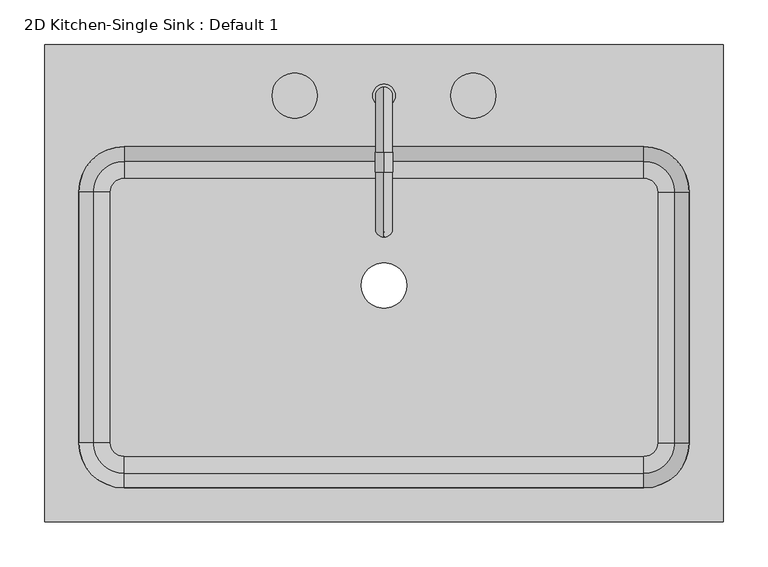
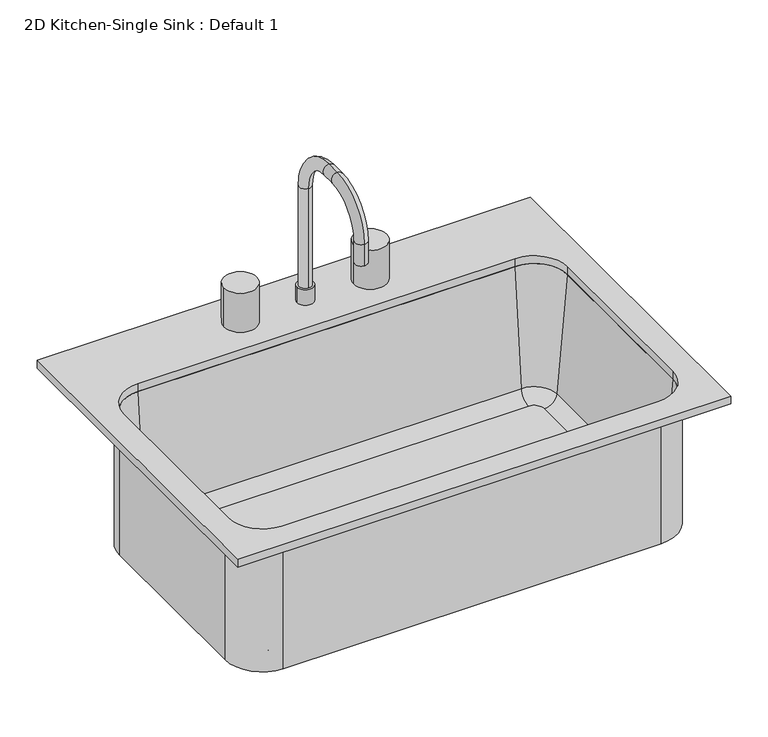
"""IFC4 building model written with IfcOpenShell, lengths in millimetres: flow terminal geometry, 2D Kitchen-Single Sink : Default 1."""

import ifcopenshell
import ifcopenshell.guid

model = None  # the IFC model being written
_history = None  # IfcOwnerHistory: only IFC2X3 demands one
_inside = {}  # id of a spatial element -> (the spatial element, [elements in it])
_under = {}  # id of a project, library or spatial element -> (it, [spatial elements below it])
_declared = {}  # id of a project -> (the project, [libraries it declares])
_typed = {}  # id of a type object -> (the type object, [elements of that type])
_made_of = {}  # id of a material, layer set ... -> (it, [elements and type objects made of it])


def new_model(schema):
    """Start an empty IFC model of exactly this schema.

    Asked for "IFC4X3", IfcOpenShell would pick the latest addendum, in which some entities
    have other attributes; the version numbers below select the first issue.
    IFC2X3 requires an IfcOwnerHistory on every rooted entity: one is made here for all.
    """
    global model, _history
    if schema == "IFC4X3":
        model = ifcopenshell.file(schema_version=(4, 3, 0, 0))
    else:
        model = ifcopenshell.file(schema=schema)
    _inside.clear()
    _under.clear()
    _declared.clear()
    _typed.clear()
    _made_of.clear()
    _history = None
    if model.schema == "IFC2X3":
        org = make("IfcOrganization", Name="unknown")
        user = make(
            "IfcPersonAndOrganization",
            ThePerson=make("IfcPerson", FamilyName="unknown"),
            TheOrganization=org,
        )
        app = make(
            "IfcApplication",
            ApplicationDeveloper=org,
            Version="unknown",
            ApplicationFullName="unknown",
            ApplicationIdentifier="unknown",
        )
        _history = make(
            "IfcOwnerHistory",
            OwningUser=user,
            OwningApplication=app,
            ChangeAction="ADDED",
            CreationDate=0,
        )
    return model


def make(cls, **values):
    """One entity of the class cls with the attributes given. An attribute that is None is left unset."""
    return model.create_entity(
        cls, **{name: value for name, value in values.items() if value is not None}
    )


def rooted(cls, **values):
    """An entity with a GlobalId (a new one), such as an element, a storey or a relation."""
    return make(cls, GlobalId=ifcopenshell.guid.new(), OwnerHistory=_history, **values)


def si_unit(unit_type, name, prefix=None):
    """IfcSIUnit, for example si_unit("LENGTHUNIT", "METRE", prefix="MILLI")."""
    return make("IfcSIUnit", UnitType=unit_type, Prefix=prefix, Name=name)


def assignment(units):
    """IfcUnitAssignment: the units of a project."""
    return None if units is None else make("IfcUnitAssignment", Units=units)


def point(xyz):
    """IfcCartesianPoint."""
    return None if xyz is None else make("IfcCartesianPoint", Coordinates=xyz)


def direction(xyz):
    """IfcDirection."""
    return None if xyz is None else make("IfcDirection", DirectionRatios=xyz)


def frame(location, z_axis=None, x_axis=None):
    """IfcAxis2Placement3D, a coordinate frame: its origin and axes. An axis left out is left unset."""
    return make(
        "IfcAxis2Placement3D",
        Location=point(location),
        Axis=direction(z_axis),
        RefDirection=direction(x_axis),
    )


def frame_2d(location, x_axis=None):
    """IfcAxis2Placement2D, a coordinate frame in the plane: its origin and x axis."""
    return make(
        "IfcAxis2Placement2D", Location=point(location), RefDirection=direction(x_axis)
    )


def origin():
    """The frame at (0, 0, 0) with its axes left unset."""
    return frame((0.0, 0.0, 0.0))


def place(relative_to, where):
    """IfcLocalPlacement: puts the frame where relative to a parent placement (None: the world)."""
    return make(
        "IfcLocalPlacement", PlacementRelTo=relative_to, RelativePlacement=where
    )


def context(
    kind, dimensions, precision=None, world=None, true_north=None, identifier=None
):
    """IfcGeometricRepresentationContext, for example the 3D "Model" context."""
    return make(
        "IfcGeometricRepresentationContext",
        ContextIdentifier=identifier,
        ContextType=kind,
        CoordinateSpaceDimension=dimensions,
        Precision=precision,
        WorldCoordinateSystem=world,
        TrueNorth=true_north,
    )


def project(units=None, contexts=None):
    """IfcProject with its units and contexts."""
    return rooted(
        "IfcProject",
        Name="project",
        RepresentationContexts=contexts,
        UnitsInContext=assignment(units),
    )


def spatial(cls, under=None, at=None, **own):
    """A site, building, storey or space (cls), placed at a placement, below another one or the project."""
    s = rooted(cls, ObjectPlacement=at, **own)
    if under is not None:
        _under.setdefault(under.id(), (under, []))[1].append(s)
    return s


def polyline(points):
    """IfcPolyline through the points."""
    return make("IfcPolyline", Points=[point(p) for p in points])


def circle_curve(where, radius):
    """IfcCircle in the frame where."""
    return make("IfcCircle", Position=where, Radius=radius)


def ellipse_curve(where, semi_axis1, semi_axis2):
    """IfcEllipse in the frame where."""
    return make(
        "IfcEllipse", Position=where, SemiAxis1=semi_axis1, SemiAxis2=semi_axis2
    )


def trimmed(basis, trim1, trim2, sense, master):
    """IfcTrimmedCurve: the piece of a basis curve between two trims."""
    return make(
        "IfcTrimmedCurve",
        BasisCurve=basis,
        Trim1=trim1,
        Trim2=trim2,
        SenseAgreement=sense,
        MasterRepresentation=master,
    )


def segment(curve, same_sense, transition):
    """IfcCompositeCurveSegment."""
    return make(
        "IfcCompositeCurveSegment",
        Transition=transition,
        SameSense=same_sense,
        ParentCurve=curve,
    )


def composite_curve(segments, self_intersect=None):
    """IfcCompositeCurve: segments joined end to end."""
    return make("IfcCompositeCurve", Segments=segments, SelfIntersect=self_intersect)


def outline(outer, holes=None, kind="AREA"):
    """IfcArbitraryClosedProfileDef: a profile drawn as a closed curve; with holes, ...WithVoids."""
    if holes is None:
        return make("IfcArbitraryClosedProfileDef", ProfileType=kind, OuterCurve=outer)
    return make(
        "IfcArbitraryProfileDefWithVoids",
        ProfileType=kind,
        OuterCurve=outer,
        InnerCurves=holes,
    )


def extrude(swept, where, along, depth):
    """IfcExtrudedAreaSolid: the profile swept, set in the frame where, extruded along a direction by depth."""
    return make(
        "IfcExtrudedAreaSolid",
        SweptArea=swept,
        Position=where,
        ExtrudedDirection=direction(along),
        Depth=depth,
    )


def shape(context_of_items, identifier, shape_type, items):
    """IfcShapeRepresentation: the items that make up one representation, for example the "Body"."""
    return make(
        "IfcShapeRepresentation",
        ContextOfItems=context_of_items,
        RepresentationIdentifier=identifier,
        RepresentationType=shape_type,
        Items=items,
    )


def source(mapping_origin, context_of_items, identifier, shape_type, items):
    """IfcRepresentationMap: a shape defined once, which mapped items show again and again."""
    return make(
        "IfcRepresentationMap",
        MappingOrigin=mapping_origin,
        MappedRepresentation=shape(context_of_items, identifier, shape_type, items),
    )


def transform(
    local_origin,
    x_axis=None,
    y_axis=None,
    z_axis=None,
    scale=None,
    scale2=None,
    scale3=None,
    uniform=True,
):
    """IfcCartesianTransformationOperator3D, or its non-uniform kind. x_axis, y_axis, z_axis: its Axis1, 2, 3."""
    if uniform:
        return make(
            "IfcCartesianTransformationOperator3D",
            Axis1=direction(x_axis),
            Axis2=direction(y_axis),
            LocalOrigin=point(local_origin),
            Scale=scale,
            Axis3=direction(z_axis),
        )
    return make(
        "IfcCartesianTransformationOperator3DnonUniform",
        Axis1=direction(x_axis),
        Axis2=direction(y_axis),
        LocalOrigin=point(local_origin),
        Scale=scale,
        Axis3=direction(z_axis),
        Scale2=scale2,
        Scale3=scale3,
    )


def mapped(mapping_source, mapping_target):
    """IfcMappedItem: shows the shape of a source again, moved by a transform."""
    return make(
        "IfcMappedItem", MappingSource=mapping_source, MappingTarget=mapping_target
    )


def made_of(thing, what):
    """Note that an element or type object is made of a material, layer set ...; save() writes the relation."""
    if what is not None:
        _made_of.setdefault(what.id(), (what, []))[1].append(thing)
    return thing


def element(
    cls,
    number,
    at=None,
    inside=None,
    cuts=None,
    type_object=None,
    material=None,
    context=None,
    identifier="Body",
    shape_type=None,
    held_by="IfcProductDefinitionShape",
    body=None,
    shapes=None,
    **own,
):
    """One element of the class cls, such as IfcWall. Its Tag is "e" and its number.

    at: its placement. inside: the storey or other place that contains it. cuts: it is an
    opening in that element (IfcRelVoidsElement). A single representation is given by context,
    identifier, shape_type and body (its items); several are given by shapes. held_by: the class
    of the entity that holds the representations. save() writes the other relations.
    """
    e = rooted(cls, Tag="e%d" % number, ObjectPlacement=at, **own)
    if body is not None:
        shapes = [shape(context, identifier, shape_type, body)]
    if shapes is not None:
        e.Representation = make(held_by, Representations=shapes)
    if inside is not None:
        _inside.setdefault(inside.id(), (inside, []))[1].append(e)
    if cuts is not None:
        rooted(
            "IfcRelVoidsElement", RelatingBuildingElement=cuts, RelatedOpeningElement=e
        )
    if type_object is not None:
        _typed.setdefault(type_object.id(), (type_object, []))[1].append(e)
    return made_of(e, material)


def aggregate(whole, parts):
    """IfcRelAggregates: a whole, such as a stair, and the parts it consists of."""
    return rooted("IfcRelAggregates", RelatingObject=whole, RelatedObjects=parts)


def save(model, path):
    """Write the relations noted so far, then the file.

    IfcRelAggregates (storeys below a building ...), IfcRelContainedInSpatialStructure (elements
    in a storey), IfcRelDefinesByType, IfcRelAssociatesMaterial and IfcRelDeclares: one each for
    every whole, place, type object, material and project.
    """
    for whole, parts in _under.values():
        aggregate(whole, parts)
    for where, things in _inside.values():
        rooted(
            "IfcRelContainedInSpatialStructure",
            RelatedElements=things,
            RelatingStructure=where,
        )
    for kind, things in _typed.values():
        rooted("IfcRelDefinesByType", RelatedObjects=things, RelatingType=kind)
    for what, things in _made_of.values():
        rooted("IfcRelAssociatesMaterial", RelatedObjects=things, RelatingMaterial=what)
    for by, libraries in _declared.values():
        rooted("IfcRelDeclares", RelatingContext=by, RelatedDefinitions=libraries)
    model.write(path)


def plane_surface(at):
    """IfcPlane: the flat surface through the origin of the frame at, square to its z axis."""
    return make("IfcPlane", Position=at)


def cylinder_surface(at, radius):
    """IfcCylindricalSurface: all points at the distance radius from the z axis of the frame at."""
    return make("IfcCylindricalSurface", Position=at, Radius=radius)


def revolved_surface(curve, axis_point, axis_direction):
    """IfcSurfaceOfRevolution: the curve turned about the line through axis_point along axis_direction."""
    return make(
        "IfcSurfaceOfRevolution",
        SweptCurve=make("IfcArbitraryOpenProfileDef", ProfileType="CURVE", Curve=curve),
        AxisPosition=make("IfcAxis1Placement", Location=point(axis_point), Axis=direction(axis_direction)),
    )


def advanced_brep(points, edges, surfaces, faces):
    """IfcAdvancedBrep: a solid bounded by faces that lie on surfaces and meet in shared edges.

    An edge is (start, end): straight between two places in points (the first is 0);
    or (start, end, curve); or (start, end, curve, False) where it runs against its curve.
    A face is (place in surfaces, loops), or (place, loops, False) where it looks against
    its surface's normal. A loop lists edges by number (the first is 1), with a minus sign
    where the edge is run from its end to its start. The first loop is the outer one.
    """
    corners = [point(p) for p in points]
    vertices = [make("IfcVertexPoint", VertexGeometry=c) for c in corners]
    made = []
    for start, end, *more in edges:
        made.append(
            make(
                "IfcEdgeCurve",
                EdgeStart=vertices[start],
                EdgeEnd=vertices[end],
                EdgeGeometry=more[0] if more else make("IfcPolyline", Points=[corners[start], corners[end]]),
                SameSense=more[1] if len(more) > 1 else True,
            )
        )
    hull = []
    for where, loops, *sense in faces:
        bounds = []
        for j, loop in enumerate(loops):
            ring = [make("IfcOrientedEdge", EdgeElement=made[abs(k) - 1], Orientation=k > 0) for k in loop]
            bounds.append(
                make(
                    "IfcFaceOuterBound" if j == 0 else "IfcFaceBound",
                    Bound=make("IfcEdgeLoop", EdgeList=ring),
                    Orientation=True,
                )
            )
        hull.append(make("IfcAdvancedFace", Bounds=bounds, FaceSurface=surfaces[where], SameSense=sense[0] if sense else True))
    return make("IfcAdvancedBrep", Outer=make("IfcClosedShell", CfsFaces=hull))


def flow_terminal_2d_kitchen_single_sink_default_1_444df6f0(model_context):
    return source(origin(), model_context, "Body", "SolidModel", [
        advanced_brep(
        [(363.9392406, 104.7454011, 546.1), (306.7892406, 161.8954011, 546.1), (306.7892406, 161.8954011, 762.0), (363.9392406, 104.7454011, 762.0), (363.9392406, -176.2545989, 546.1), (306.7892406, -233.4045989, 546.1), (-275.4107594, -233.4045989, 546.1), (-332.5607594, -176.2545989, 546.1), (-332.5607594, 104.7454011, 546.1), (-275.4107594, 161.8954011, 546.1), (-9.7107594, 0.0, 546.1), (41.0892406, 0.0, 546.1), (322.0776588, 104.7454011, 555.625), (306.7892406, 120.0338193, 555.625), (-275.4107594, 120.0338193, 555.625), (-290.6991776, 104.7454011, 555.625), (-290.6991776, -176.2545989, 555.625), (-275.4107594, -191.5430171, 555.625), (306.7892406, -191.5430171, 555.625), (322.0776588, -176.2545989, 555.625), (-9.7107594, 0.0, 555.625), (41.0892406, 0.0, 555.625), (341.0551678, 104.7454011, 573.0146831), (306.7892406, 139.0113283, 573.0146831), (357.5892406, 104.7454011, 762.0), (306.7892406, 155.5454011, 762.0), (363.9392406, -176.2545989, 762.0), (341.0551678, -176.2545989, 573.0146831), (357.5892406, -176.2545989, 762.0), (306.7892406, -233.4045989, 762.0), (306.7892406, -210.5205261, 573.0146831), (306.7892406, -227.0545989, 762.0), (-275.4107594, -233.4045989, 762.0), (-275.4107594, -210.5205261, 573.0146831), (-275.4107594, -227.0545989, 762.0), (-332.5607594, -176.2545989, 762.0), (-309.6766866, -176.2545989, 573.0146831), (-326.2107594, -176.2545989, 762.0), (-332.5607594, 104.7454011, 762.0), (-309.6766866, 104.7454011, 573.0146831), (-326.2107594, 104.7454011, 762.0), (-275.4107594, 161.8954011, 762.0), (-275.4107594, 139.0113283, 573.0146831), (-275.4107594, 155.5454011, 762.0)],
        [
            (0, 1, circle_curve(frame((306.7892406, 104.7454011, 546.1), z_axis=(0.0, 0.0, 1.0), x_axis=(0.0, 1.0, 0.0)), 57.15)),
            (1, 2),
            (2, 3, circle_curve(frame((306.7892406, 104.7454011, 762.0), z_axis=(0.0, 0.0, -1.0), x_axis=(0.0, 1.0, 0.0)), 57.15)),
            (3, 0),
            (0, 4),
            (4, 5, circle_curve(frame((306.7892406, -176.2545989, 546.1), z_axis=(0.0, 0.0, -1.0), x_axis=(1.0, 0.0, 0.0)), 57.15)),
            (5, 6),
            (6, 7, circle_curve(frame((-275.4107594, -176.2545989, 546.1), z_axis=(0.0, 0.0, -1.0), x_axis=(0.0, -1.0, 0.0)), 57.15)),
            (7, 8),
            (8, 9, circle_curve(frame((-275.4107594, 104.7454011, 546.1), z_axis=(0.0, 0.0, -1.0), x_axis=(-1.0, 0.0, 0.0)), 57.15)),
            (9, 1),
            (10, 11, circle_curve(frame((15.6892406, 0.0, 546.1), z_axis=(0.0, 0.0, 1.0), x_axis=(1.0, 0.0, 0.0)), 25.4)),
            (11, 10, circle_curve(frame((15.6892406, 0.0, 546.1), z_axis=(0.0, 0.0, 1.0), x_axis=(1.0, 0.0, 0.0)), 25.4)),
            (12, 13, circle_curve(frame((306.7892406, 104.7454011, 555.625), z_axis=(0.0, 0.0, 1.0), x_axis=(0.0, 1.0, 0.0)), 15.2884182)),
            (13, 14),
            (14, 15, circle_curve(frame((-275.4107594, 104.7454011, 555.625), z_axis=(0.0, 0.0, 1.0), x_axis=(-1.0, 0.0, 0.0)), 15.2884182)),
            (15, 16),
            (16, 17, circle_curve(frame((-275.4107594, -176.2545989, 555.625), z_axis=(0.0, 0.0, 1.0), x_axis=(0.0, -1.0, 0.0)), 15.2884182)),
            (17, 18),
            (18, 19, circle_curve(frame((306.7892406, -176.2545989, 555.625), z_axis=(0.0, 0.0, 1.0), x_axis=(1.0, 0.0, 0.0)), 15.2884182)),
            (19, 12),
            (20, 21, circle_curve(frame((15.6892406, 0.0, 555.625), z_axis=(0.0, 0.0, -1.0), x_axis=(1.0, 0.0, 0.0)), 25.4)),
            (21, 20, circle_curve(frame((15.6892406, 0.0, 555.625), z_axis=(0.0, 0.0, -1.0), x_axis=(1.0, 0.0, 0.0)), 25.4)),
            (12, 22, circle_curve(frame((322.0776588, 104.7454011, 574.675), z_axis=(0.0, -1.0, 0.0), x_axis=(1.0, 0.0, 0.0)), 19.05)),
            (22, 23, circle_curve(frame((306.7892406, 104.7454011, 573.0146831), z_axis=(0.0, 0.0, 1.0), x_axis=(0.0, 1.0, 0.0)), 34.2659272)),
            (23, 13, circle_curve(frame((306.7892406, 120.0338193, 574.675), z_axis=(-1.0, 0.0, 0.0), x_axis=(0.0, 1.0, 0.0)), 19.05)),
            (22, 24),
            (24, 25, circle_curve(frame((306.7892406, 104.7454011, 762.0), z_axis=(0.0, 0.0, 1.0), x_axis=(0.0, 1.0, 0.0)), 50.8)),
            (25, 23),
            (2, 25),
            (24, 3),
            (3, 26),
            (26, 4),
            (19, 27, circle_curve(frame((322.0776588, -176.2545989, 574.675), z_axis=(0.0, -1.0, 0.0), x_axis=(1.0, 0.0, 0.0)), 19.05)),
            (27, 22),
            (27, 28),
            (28, 24),
            (28, 26),
            (26, 29, circle_curve(frame((306.7892406, -176.2545989, 762.0), z_axis=(0.0, 0.0, -1.0), x_axis=(1.0, 0.0, 0.0)), 57.15)),
            (29, 5),
            (18, 30, circle_curve(frame((306.7892406, -191.5430171, 574.675), z_axis=(-1.0, 0.0, 0.0), x_axis=(0.0, -1.0, 0.0)), 19.05)),
            (30, 27, circle_curve(frame((306.7892406, -176.2545989, 573.0146831), z_axis=(0.0, 0.0, 1.0), x_axis=(1.0, 0.0, 0.0)), 34.2659272)),
            (30, 31),
            (31, 28, circle_curve(frame((306.7892406, -176.2545989, 762.0), z_axis=(0.0, 0.0, 1.0), x_axis=(1.0, 0.0, 0.0)), 50.8)),
            (31, 29),
            (29, 32),
            (32, 6),
            (17, 33, circle_curve(frame((-275.4107594, -191.5430171, 574.675), z_axis=(-1.0, 0.0, 0.0), x_axis=(0.0, -1.0, 0.0)), 19.05)),
            (33, 30),
            (33, 34),
            (34, 31),
            (34, 32),
            (32, 35, circle_curve(frame((-275.4107594, -176.2545989, 762.0), z_axis=(0.0, 0.0, -1.0), x_axis=(0.0, -1.0, 0.0)), 57.15)),
            (35, 7),
            (16, 36, circle_curve(frame((-290.6991776, -176.2545989, 574.675), z_axis=(0.0, 1.0, 0.0), x_axis=(-1.0, 0.0, 0.0)), 19.05)),
            (36, 33, circle_curve(frame((-275.4107594, -176.2545989, 573.0146831), z_axis=(0.0, 0.0, 1.0), x_axis=(0.0, -1.0, 0.0)), 34.2659272)),
            (36, 37),
            (37, 34, circle_curve(frame((-275.4107594, -176.2545989, 762.0), z_axis=(0.0, 0.0, 1.0), x_axis=(0.0, -1.0, 0.0)), 50.8)),
            (37, 35),
            (35, 38),
            (38, 8),
            (15, 39, circle_curve(frame((-290.6991776, 104.7454011, 574.675), z_axis=(0.0, 1.0, 0.0), x_axis=(-1.0, 0.0, 0.0)), 19.05)),
            (39, 36),
            (39, 40),
            (40, 37),
            (40, 38),
            (38, 41, circle_curve(frame((-275.4107594, 104.7454011, 762.0), z_axis=(0.0, 0.0, -1.0), x_axis=(-1.0, 0.0, 0.0)), 57.15)),
            (41, 9),
            (14, 42, circle_curve(frame((-275.4107594, 120.0338193, 574.675), z_axis=(1.0, 0.0, 0.0), x_axis=(0.0, 1.0, 0.0)), 19.05)),
            (42, 39, circle_curve(frame((-275.4107594, 104.7454011, 573.0146831), z_axis=(0.0, 0.0, 1.0), x_axis=(-1.0, 0.0, 0.0)), 34.2659272)),
            (42, 43),
            (43, 40, circle_curve(frame((-275.4107594, 104.7454011, 762.0), z_axis=(0.0, 0.0, 1.0), x_axis=(-1.0, 0.0, 0.0)), 50.8)),
            (43, 41),
            (41, 2),
            (23, 42),
            (25, 43),
            (20, 10),
            (11, 21),
        ],
        [
            cylinder_surface(frame((306.7892406, 104.7454011, 0.0), z_axis=(0.0, 0.0, -1.0), x_axis=(0.0, 1.0, 0.0)), 57.15),
            plane_surface(frame((306.7892406, 104.7454011, 546.1), z_axis=(0.0, 0.0, -1.0), x_axis=(0.0, 1.0, 0.0))),
            plane_surface(frame((306.7892406, 104.7454011, 555.625), z_axis=(0.0, 0.0, 1.0), x_axis=(0.0, 1.0, 0.0))),
            revolved_surface(trimmed(ellipse_curve(frame((306.7892406, 120.0338193, 574.675), z_axis=(1.0, 0.0, 0.0), x_axis=(0.0, 1.0, 0.0)), 19.05, 19.05), [point((306.7892406, 120.0338193, 555.625))], [point((306.7892406, 139.0113283, 573.0146831))], True, "CARTESIAN"), (306.7892406, 104.7454011, 0.0), (0.0, 0.0, -1.0)),
            revolved_surface(polyline([(306.7892406, 139.0113283, 573.0146831), (306.7892406, 155.5454011, 762.0)]), (306.7892406, 104.7454011, 0.0), (0.0, 0.0, -1.0)),
            plane_surface(frame((306.7892406, 104.7454011, 762.0), z_axis=(0.0, 0.0, 1.0), x_axis=(0.0, 1.0, 0.0))),
            plane_surface(frame((363.9392406, 104.7454011, 762.0), z_axis=(1.0, 0.0, 0.0), x_axis=(0.0, -1.0, 0.0))),
            revolved_surface(polyline([(341.1276588, -176.25459890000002, 574.675), (341.1276588, 104.7454011, 574.675)]), (322.0776588, 104.7454011, 574.675), (0.0, -1.0, 0.0)),
            plane_surface(frame((341.0551678, 104.7454011, 573.0146831), z_axis=(-0.9961946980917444, 0.0, 0.08715574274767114), x_axis=(0.0, -1.0, 0.0))),
            plane_surface(frame((357.5892406, 104.7454011, 762.0), z_axis=(0.0, 0.0, 1.0), x_axis=(0.0, -1.0, 0.0))),
            cylinder_surface(frame((306.7892406, -176.2545989, 0.0), z_axis=(0.0, 0.0, -1.0), x_axis=(1.0, 0.0, 0.0)), 57.15),
            revolved_surface(trimmed(ellipse_curve(frame((322.0776588, -176.2545989, 574.675), z_axis=(0.0, -1.0, 0.0), x_axis=(1.0, 0.0, 0.0)), 19.05, 19.05), [point((322.0776588, -176.2545989, 555.625))], [point((341.0551678, -176.2545989, 573.0146831))], True, "CARTESIAN"), (306.7892406, -176.2545989, 0.0), (0.0, 0.0, -1.0)),
            revolved_surface(polyline([(341.0551678, -176.2545989, 573.0146831), (357.5892406, -176.2545989, 762.0)]), (306.7892406, -176.2545989, 0.0), (0.0, 0.0, -1.0)),
            plane_surface(frame((306.7892406, -176.2545989, 762.0), z_axis=(0.0, 0.0, 1.0), x_axis=(1.0, 0.0, 0.0))),
            plane_surface(frame((306.7892406, -233.4045989, 762.0), z_axis=(0.0, -1.0, 0.0), x_axis=(-1.0, 0.0, 0.0))),
            revolved_surface(polyline([(-275.4107594, -210.5930171, 574.675), (306.7892406, -210.5930171, 574.675)]), (306.7892406, -191.5430171, 574.675), (-1.0, 0.0, 0.0)),
            plane_surface(frame((306.7892406, -210.5205261, 573.0146831), z_axis=(0.0, 0.9961946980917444, 0.08715574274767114), x_axis=(-1.0, 0.0, 0.0))),
            plane_surface(frame((306.7892406, -227.0545989, 762.0), z_axis=(0.0, 0.0, 1.0), x_axis=(-1.0, 0.0, 0.0))),
            cylinder_surface(frame((-275.4107594, -176.2545989, 0.0), z_axis=(0.0, 0.0, -1.0), x_axis=(0.0, -1.0, 0.0)), 57.15),
            revolved_surface(trimmed(ellipse_curve(frame((-275.4107594, -191.5430171, 574.675), z_axis=(-1.0, 0.0, 0.0), x_axis=(0.0, -1.0, 0.0)), 19.05, 19.05), [point((-275.4107594, -191.5430171, 555.625))], [point((-275.4107594, -210.5205261, 573.0146831))], True, "CARTESIAN"), (-275.4107594, -176.2545989, 0.0), (0.0, 0.0, -1.0)),
            revolved_surface(polyline([(-275.4107594, -210.5205261, 573.0146831), (-275.4107594, -227.0545989, 762.0)]), (-275.4107594, -176.2545989, 0.0), (0.0, 0.0, -1.0)),
            plane_surface(frame((-275.4107594, -176.2545989, 762.0), z_axis=(0.0, 0.0, 1.0), x_axis=(0.0, -1.0, 0.0))),
            plane_surface(frame((-332.5607594, -176.2545989, 762.0), z_axis=(-1.0, 0.0, 0.0), x_axis=(0.0, 1.0, 0.0))),
            revolved_surface(polyline([(-309.7491776, 104.74540110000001, 574.675), (-309.7491776, -176.2545989, 574.675)]), (-290.6991776, -176.2545989, 574.675), (0.0, 1.0, 0.0)),
            plane_surface(frame((-309.6766866, -176.2545989, 573.0146831), z_axis=(0.9961946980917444, 0.0, 0.08715574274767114), x_axis=(0.0, 1.0, 0.0))),
            plane_surface(frame((-326.2107594, -176.2545989, 762.0), z_axis=(0.0, 0.0, 1.0), x_axis=(0.0, 1.0, 0.0))),
            cylinder_surface(frame((-275.4107594, 104.7454011, 0.0), z_axis=(0.0, 0.0, -1.0), x_axis=(-1.0, 0.0, 0.0)), 57.15),
            revolved_surface(trimmed(ellipse_curve(frame((-290.6991776, 104.7454011, 574.675), z_axis=(0.0, 1.0, 0.0), x_axis=(-1.0, 0.0, 0.0)), 19.05, 19.05), [point((-290.6991776, 104.7454011, 555.625))], [point((-309.6766866, 104.7454011, 573.0146831))], True, "CARTESIAN"), (-275.4107594, 104.7454011, 0.0), (0.0, 0.0, -1.0)),
            revolved_surface(polyline([(-309.6766866, 104.7454011, 573.0146831), (-326.2107594, 104.7454011, 762.0)]), (-275.4107594, 104.7454011, 0.0), (0.0, 0.0, -1.0)),
            plane_surface(frame((-275.4107594, 104.7454011, 762.0), z_axis=(0.0, 0.0, 1.0), x_axis=(-1.0, 0.0, 0.0))),
            plane_surface(frame((-275.4107594, 161.8954011, 762.0), z_axis=(0.0, 1.0, 0.0), x_axis=(1.0, 0.0, 0.0))),
            revolved_surface(polyline([(306.7892406, 139.08381930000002, 574.675), (-275.4107594, 139.08381930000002, 574.675)]), (-275.4107594, 120.0338193, 574.675), (1.0, 0.0, 0.0)),
            plane_surface(frame((-275.4107594, 139.0113283, 573.0146831), z_axis=(0.0, -0.9961946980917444, 0.08715574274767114), x_axis=(1.0, 0.0, 0.0))),
            plane_surface(frame((-275.4107594, 155.5454011, 762.0), z_axis=(0.0, 0.0, 1.0), x_axis=(1.0, 0.0, 0.0))),
            revolved_surface(polyline([(41.0892406, 0.0, 546.1), (41.0892406, 0.0, 555.625)]), (15.6892406, 0.0, 0.0), (0.0, 0.0, -1.0)),
        ],
        [
            (0, [[1, 2, 3, 4]]),
            (1, [[-1, 5, 6, 7, 8, 9, 10, 11], [12, 13]]),
            (2, [[14, 15, 16, 17, 18, 19, 20, 21], [22, 23]]),
            (3, [[-14, 24, 25, 26]]),
            (4, [[-25, 27, 28, 29]]),
            (5, [[-3, 30, -28, 31]]),
            (6, [[-4, 32, 33, -5]]),
            (7, [[-24, -21, 34, 35]]),
            (8, [[-27, -35, 36, 37]]),
            (9, [[-31, -37, 38, -32]]),
            (10, [[-33, 39, 40, -6]]),
            (11, [[-34, -20, 41, 42]]),
            (12, [[-36, -42, 43, 44]]),
            (13, [[-38, -44, 45, -39]]),
            (14, [[-40, 46, 47, -7]]),
            (15, [[-41, -19, 48, 49]]),
            (16, [[-43, -49, 50, 51]]),
            (17, [[-45, -51, 52, -46]]),
            (18, [[-47, 53, 54, -8]]),
            (19, [[-48, -18, 55, 56]]),
            (20, [[-50, -56, 57, 58]]),
            (21, [[-52, -58, 59, -53]]),
            (22, [[-54, 60, 61, -9]]),
            (23, [[-55, -17, 62, 63]]),
            (24, [[-57, -63, 64, 65]]),
            (25, [[-59, -65, 66, -60]]),
            (26, [[-61, 67, 68, -10]]),
            (27, [[-62, -16, 69, 70]]),
            (28, [[-64, -70, 71, 72]]),
            (29, [[-66, -72, 73, -67]]),
            (30, [[-2, -11, -68, 74]]),
            (31, [[-26, 75, -69, -15]]),
            (32, [[-29, 76, -71, -75]]),
            (33, [[-30, -74, -73, -76]]),
            (34, [[-22, 77, -13, 78]]),
            (34, [[-23, -78, -12, -77]]),
        ],
    ),
        advanced_brep(
        [(2.9892406, 212.6954011, 800.1), (28.3892406, 212.6954011, 800.1), (15.6892406, 222.2204011, 800.1), (15.6892406, 203.1704011, 800.1), (2.9892406, 212.6954011, 774.7), (28.3892406, 212.6954011, 774.7), (15.6892406, 222.2204011, 962.025), (15.6892406, 203.1704011, 962.025), (15.6892406, 149.1954011, 1035.05), (15.6892406, 149.1954011, 1016.0), (15.6892406, 126.9704011, 1035.05), (15.6892406, 126.9704011, 1016.0), (15.6892406, 53.9454011, 962.025), (15.6892406, 72.9954011, 962.025), (15.6892406, 53.9454011, 927.1), (15.6892406, 72.9954011, 927.1)],
        [
            (0, 1, circle_curve(frame((15.6892406, 212.6954011, 800.1), z_axis=(0.0, 0.0, 1.0), x_axis=(1.0, 0.0, 0.0)), 12.7)),
            (1, 0, circle_curve(frame((15.6892406, 212.6954011, 800.1), z_axis=(0.0, 0.0, 1.0), x_axis=(1.0, 0.0, 0.0)), 12.7)),
            (2, 3, circle_curve(frame((15.6892406, 212.6954011, 800.1), z_axis=(0.0, 0.0, -1.0), x_axis=(0.0, -1.0, 0.0)), 9.525)),
            (3, 2, circle_curve(frame((15.6892406, 212.6954011, 800.1), z_axis=(0.0, 0.0, -1.0), x_axis=(0.0, -1.0, 0.0)), 9.525)),
            (4, 5, circle_curve(frame((15.6892406, 212.6954011, 774.7), z_axis=(0.0, 0.0, -1.0), x_axis=(1.0, 0.0, 0.0)), 12.7)),
            (5, 4, circle_curve(frame((15.6892406, 212.6954011, 774.7), z_axis=(0.0, 0.0, -1.0), x_axis=(1.0, 0.0, 0.0)), 12.7)),
            (0, 4),
            (5, 1),
            (6, 7, circle_curve(frame((15.6892406, 212.6954011, 962.025), z_axis=(0.0, 0.0, -1.0), x_axis=(0.0, -1.0, 0.0)), 9.525)),
            (7, 3),
            (2, 6),
            (7, 6, circle_curve(frame((15.6892406, 212.6954011, 962.025), z_axis=(0.0, 0.0, -1.0), x_axis=(0.0, -1.0, 0.0)), 9.525)),
            (6, 8, circle_curve(frame((15.6892406, 149.1954011, 962.025), z_axis=(1.0, 0.0, 0.0), x_axis=(0.0, 1.0, 0.0)), 73.025)),
            (8, 9, circle_curve(frame((15.6892406, 149.1954011, 1025.525), z_axis=(0.0, 1.0, 0.0), x_axis=(0.0, 0.0, -1.0)), 9.525)),
            (9, 7, circle_curve(frame((15.6892406, 149.1954011, 962.025), z_axis=(-1.0, 0.0, 0.0), x_axis=(0.0, 1.0, 0.0)), 53.975)),
            (9, 8, circle_curve(frame((15.6892406, 149.1954011, 1025.525), z_axis=(0.0, 1.0, 0.0), x_axis=(0.0, 0.0, -1.0)), 9.525)),
            (8, 10),
            (10, 11, circle_curve(frame((15.6892406, 126.9704011, 1025.525), z_axis=(0.0, 1.0, 0.0), x_axis=(0.0, 0.0, -1.0)), 9.525)),
            (11, 9),
            (11, 10, circle_curve(frame((15.6892406, 126.9704011, 1025.525), z_axis=(0.0, 1.0, 0.0), x_axis=(0.0, 0.0, -1.0)), 9.525)),
            (10, 12, circle_curve(frame((15.6892406, 126.9704011, 962.025), z_axis=(1.0, 0.0, 0.0), x_axis=(0.0, 0.0, 1.0)), 73.025)),
            (12, 13, circle_curve(frame((15.6892406, 63.4704011, 962.025), z_axis=(0.0, 0.0, 1.0), x_axis=(0.0, 1.0, 0.0)), 9.525)),
            (13, 11, circle_curve(frame((15.6892406, 126.9704011, 962.025), z_axis=(-1.0, 0.0, 0.0), x_axis=(0.0, 0.0, 1.0)), 53.975)),
            (13, 12, circle_curve(frame((15.6892406, 63.4704011, 962.025), z_axis=(0.0, 0.0, 1.0), x_axis=(0.0, 1.0, 0.0)), 9.525)),
            (14, 15, circle_curve(frame((15.6892406, 63.4704011, 927.1), z_axis=(0.0, 0.0, -1.0), x_axis=(0.0, 1.0, 0.0)), 9.525)),
            (15, 14, circle_curve(frame((15.6892406, 63.4704011, 927.1), z_axis=(0.0, 0.0, -1.0), x_axis=(0.0, 1.0, 0.0)), 9.525)),
            (12, 14),
            (15, 13),
        ],
        [
            plane_surface(frame((28.3892406, 212.6954011, 800.1), z_axis=(0.0, 0.0, 1.0), x_axis=(0.0, 1.0, 0.0))),
            plane_surface(frame((28.3892406, 212.6954011, 774.7), z_axis=(0.0, 0.0, -1.0), x_axis=(0.0, -1.0, 0.0))),
            cylinder_surface(frame((15.6892406, 212.6954011, 774.7), z_axis=(0.0, 0.0, 1.0), x_axis=(1.0, 0.0, 0.0)), 12.7),
            cylinder_surface(frame((15.6892406, 212.6954011, 774.7), z_axis=(0.0, 0.0, -1.0), x_axis=(0.0, -1.0, 0.0)), 9.525),
            revolved_surface(trimmed(ellipse_curve(frame((15.6892406, 212.6954011, 962.025), z_axis=(0.0, 0.0, -1.0), x_axis=(0.0, -1.0, 0.0)), 9.525, 9.525), [point((15.6892406, 222.2204011, 962.025))], [point((15.6892406, 203.1704011, 962.025))], True, "CARTESIAN"), (15.6892406, 149.1954011, 962.025), (1.0, 0.0, 0.0)),
            revolved_surface(trimmed(ellipse_curve(frame((15.6892406, 212.6954011, 962.025), z_axis=(0.0, 0.0, -1.0), x_axis=(0.0, -1.0, 0.0)), 9.525, 9.525), [point((15.6892406, 203.1704011, 962.025))], [point((15.6892406, 222.2204011, 962.025))], True, "CARTESIAN"), (15.6892406, 149.1954011, 962.025), (1.0, 0.0, 0.0)),
            cylinder_surface(frame((15.6892406, 149.1954011, 1025.525), z_axis=(0.0, 1.0, 0.0), x_axis=(0.0, 0.0, -1.0)), 9.525),
            revolved_surface(trimmed(ellipse_curve(frame((15.6892406, 126.9704011, 1025.525), z_axis=(0.0, 1.0, 0.0), x_axis=(0.0, 0.0, -1.0)), 9.525, 9.525), [point((15.6892406, 126.9704011, 1035.05))], [point((15.6892406, 126.9704011, 1016.0))], True, "CARTESIAN"), (15.6892406, 126.9704011, 962.025), (1.0, 0.0, 0.0)),
            revolved_surface(trimmed(ellipse_curve(frame((15.6892406, 126.9704011, 1025.525), z_axis=(0.0, 1.0, 0.0), x_axis=(0.0, 0.0, -1.0)), 9.525, 9.525), [point((15.6892406, 126.9704011, 1016.0))], [point((15.6892406, 126.9704011, 1035.05))], True, "CARTESIAN"), (15.6892406, 126.9704011, 962.025), (1.0, 0.0, 0.0)),
            plane_surface(frame((15.6892406, 53.9454011, 927.1), z_axis=(0.0, 0.0, -1.0), x_axis=(-1.0, 0.0, 0.0))),
            cylinder_surface(frame((15.6892406, 63.4704011, 962.025), z_axis=(0.0, 0.0, 1.0), x_axis=(0.0, 1.0, 0.0)), 9.525),
        ],
        [
            (0, [[1, 2], [3, 4]]),
            (1, [[5, 6]]),
            (2, [[-1, 7, -6, 8]]),
            (2, [[-2, -8, -5, -7]]),
            (3, [[9, 10, -3, 11]]),
            (3, [[12, -11, -4, -10]]),
            (4, [[-9, 13, 14, 15]]),
            (5, [[-12, -15, 16, -13]]),
            (6, [[-14, 17, 18, 19]]),
            (6, [[-16, -19, 20, -17]]),
            (7, [[-18, 21, 22, 23]]),
            (8, [[-20, -23, 24, -21]]),
            (9, [[25, 26]]),
            (10, [[-22, 27, -26, 28]]),
            (10, [[-24, -28, -25, -27]]),
        ],
    ),
        extrude(outline(composite_curve([segment(trimmed(circle_curve(frame_2d((-84.3107594, 212.6954011)), 25.4), [point((-109.7107594, 212.6954011))], [point((-58.9107594, 212.6954011))], False, "CARTESIAN"), True, "CONTINUOUS"), segment(trimmed(circle_curve(frame_2d((-84.3107594, 212.6954011)), 25.4), [point((-58.9107594, 212.6954011))], [point((-109.7107594, 212.6954011))], False, "CARTESIAN"), True, "CONTINUOUS")], self_intersect=False)), frame((0.0, 0.0, 774.7), z_axis=(0.0, 0.0, 1.0), x_axis=(1.0, 0.0, 0.0)), (0.0, 0.0, 1.0), 63.5),
        extrude(outline(composite_curve([segment(trimmed(circle_curve(frame_2d((115.6892406, 212.6954011)), 25.4), [point((90.2892406, 212.6954011))], [point((141.0892406, 212.6954011))], False, "CARTESIAN"), True, "CONTINUOUS"), segment(trimmed(circle_curve(frame_2d((115.6892406, 212.6954011)), 25.4), [point((141.0892406, 212.6954011))], [point((90.2892406, 212.6954011))], False, "CARTESIAN"), True, "CONTINUOUS")], self_intersect=False)), frame((0.0, 0.0, 774.7), z_axis=(0.0, 0.0, 1.0), x_axis=(1.0, 0.0, 0.0)), (0.0, 0.0, 1.0), 63.5),
        extrude(outline(polyline([(395.6892406, 269.8454011), (395.6892406, -265.1545989), (-364.3107594, -265.1545989), (-364.3107594, 269.8454011), (395.6892406, 269.8454011)]), holes=[composite_curve([segment(polyline([(306.7892406, 155.5454011), (-275.4107594, 155.5454011)]), True, "CONTINUOUS"), segment(trimmed(circle_curve(frame_2d((-275.4107594, 104.7454011)), 50.8), [point((-275.4107594, 155.5454011))], [point((-326.2107594, 104.7454011))], True, "CARTESIAN"), True, "CONTINUOUS"), segment(polyline([(-326.2107594, 104.7454011), (-326.2107594, -176.2545989)]), True, "CONTINUOUS"), segment(trimmed(circle_curve(frame_2d((-275.4107594, -176.2545989)), 50.8), [point((-326.2107594, -176.2545989))], [point((-275.4107594, -227.0545989))], True, "CARTESIAN"), True, "CONTINUOUS"), segment(polyline([(-275.4107594, -227.0545989), (306.7892406, -227.0545989)]), True, "CONTINUOUS"), segment(trimmed(circle_curve(frame_2d((306.7892406, -176.2545989)), 50.8), [point((306.7892406, -227.0545989))], [point((357.5892406, -176.2545989))], True, "CARTESIAN"), True, "CONTINUOUS"), segment(polyline([(357.5892406, -176.2545989), (357.5892406, 104.7454011)]), True, "CONTINUOUS"), segment(trimmed(circle_curve(frame_2d((306.7892406, 104.7454011)), 50.8), [point((357.5892406, 104.7454011))], [point((306.7892406, 155.5454011))], True, "CARTESIAN"), True, "CONTINUOUS")], self_intersect=False)]), frame((0.0, 0.0, 762.0), z_axis=(0.0, 0.0, 1.0), x_axis=(1.0, 0.0, 0.0)), (0.0, 0.0, 1.0), 12.7),
    ])


if __name__ == "__main__":
    model = new_model("IFC4")
    model_context = context("Model", 3, world=origin())
    ifc_project = project(units=[si_unit("LENGTHUNIT", "METRE", prefix="MILLI")], contexts=[model_context])
    site = spatial("IfcSite", under=ifc_project)
    building = spatial("IfcBuilding", under=site)
    placement = place(None, origin())
    flow_terminal_2d_kitchen_single_sink_default_1_shape = flow_terminal_2d_kitchen_single_sink_default_1_444df6f0(model_context)
    element("IfcFlowTerminal", 1, ObjectType="2D Kitchen-Single Sink : Default 1", at=placement, inside=building, context=model_context, shape_type="MappedRepresentation", body=[
        mapped(flow_terminal_2d_kitchen_single_sink_default_1_shape, transform((0.0, 0.0, 0.0), x_axis=(1.0, 0.0, 0.0), y_axis=(0.0, 1.0, 0.0), z_axis=(0.0, 0.0, 1.0))),
    ])
    save(model, "model.ifc")
